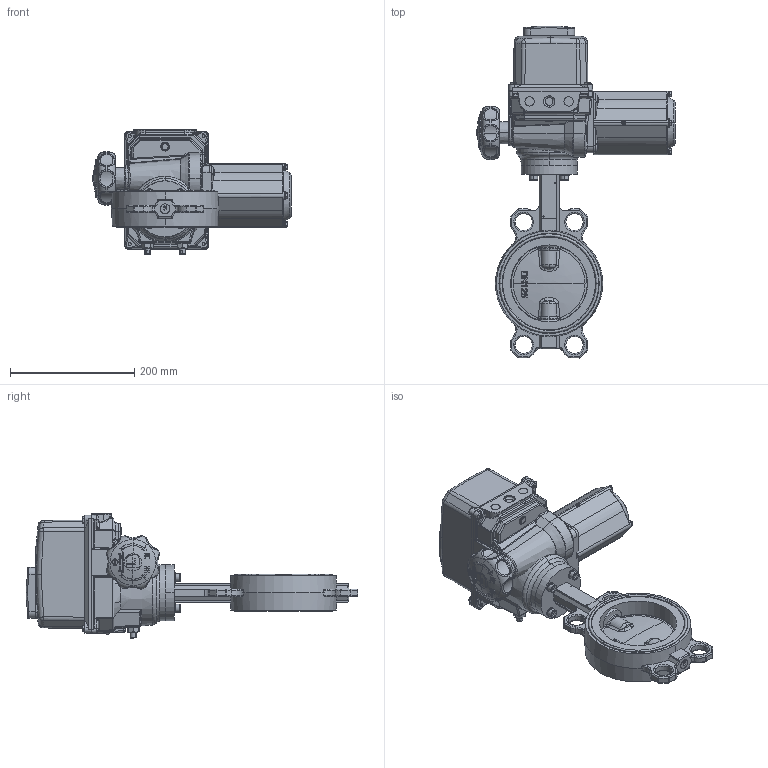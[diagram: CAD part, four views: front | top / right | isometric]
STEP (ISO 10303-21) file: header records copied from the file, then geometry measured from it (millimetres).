
FILE_DESCRIPTION (( 'STEP AP203' ), '1' );
FILE_NAME ('VPI-B04 DN125.step', '2016-09-29T14:40:38', ( 'TECOFI' ), ( '' ), 'SwSTEP 2.0', 'SolidWorks 2014', '' );
FILE_SCHEMA (( 'CONFIG_CONTROL_DESIGN' ));
Products named in the file (1): VPI-B04 DN125
Bounding box: 319.25 x 534.7 x 199.8 mm (x, y, z)
Volume: 5885356 mm3; surface area: 426800.4 mm2
Topology: 14 solids, 14 shells, 2542 faces, 6504 edges, 4061 vertices
Faces by surface type: plane 1068, bspline 585, cylinder 514, cone 135, torus 132, sphere 108
Entity records: 109433 total; most frequent: CARTESIAN_POINT 52364, ORIENTED_EDGE 12846, DIRECTION 10676, EDGE_CURVE 6423, VERTEX_POINT 4061, AXIS2_PLACEMENT_3D 4031, EDGE_LOOP 2716, LINE 2614
